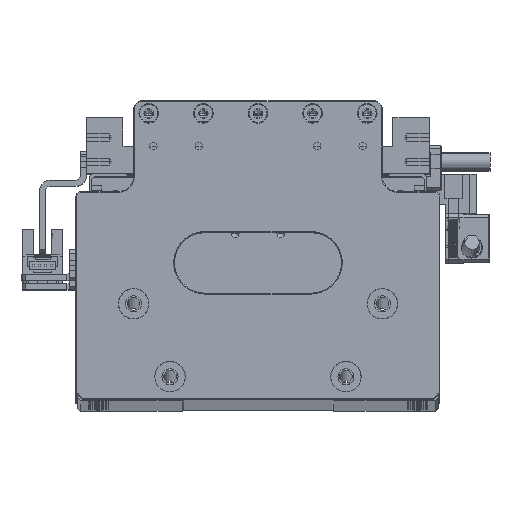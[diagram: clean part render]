
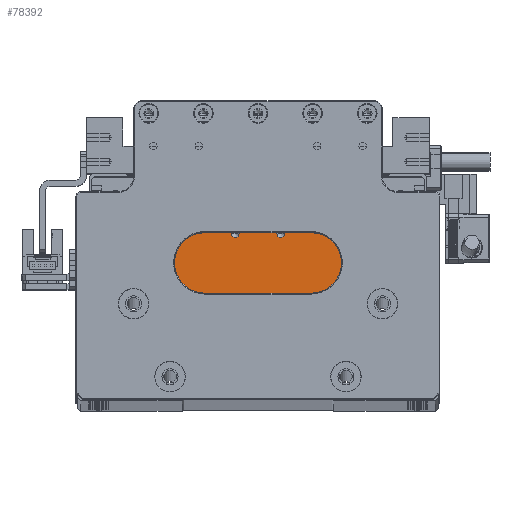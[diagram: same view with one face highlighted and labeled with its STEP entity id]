
A CAD part, top view. The second image highlights one B-rep face of the part: STEP entity #78392.
In plain terms, the highlighted planar face has unit normal (0, 0, 1).
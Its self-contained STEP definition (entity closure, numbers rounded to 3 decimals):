
#235 = VECTOR ( 'NONE', #104310, 1000. ) ;
#633 = CARTESIAN_POINT ( 'NONE',  ( 7.5, 32.2, 66.894 ) ) ;
#1108 = ORIENTED_EDGE ( 'NONE', *, *, #65518, .T. ) ;
#1875 = CARTESIAN_POINT ( 'NONE',  ( 18.5, 40.2, 66.894 ) ) ;
#2452 = EDGE_CURVE ( 'NONE', #56827, #56666, #53800, .T. ) ;
#4396 = CARTESIAN_POINT ( 'NONE',  ( -8.75, 32.2, 66.894 ) ) ;
#5503 = DIRECTION ( 'NONE',  ( 1., 0., 0. ) ) ;
#6701 = DIRECTION ( 'NONE',  ( 1., 0., 0. ) ) ;
#6750 = ORIENTED_EDGE ( 'NONE', *, *, #110049, .T. ) ;
#9055 = LINE ( 'NONE', #23405, #14851 ) ;
#9929 = DIRECTION ( 'NONE',  ( 1., 0., 0. ) ) ;
#10654 = CARTESIAN_POINT ( 'NONE',  ( -18.5, 40., 66.894 ) ) ;
#11289 = CARTESIAN_POINT ( 'NONE',  ( -30., 0.2, 66.894 ) ) ;
#11828 = AXIS2_PLACEMENT_3D ( 'NONE', #28943, #93885, #38307 ) ;
#14851 = VECTOR ( 'NONE', #70077, 1000. ) ;
#16034 = ORIENTED_EDGE ( 'NONE', *, *, #28291, .T. ) ;
#16183 = FACE_BOUND ( 'NONE', #86111, .T. ) ;
#16413 = EDGE_CURVE ( 'NONE', #22173, #120401, #44868, .T. ) ;
#16951 = EDGE_CURVE ( 'NONE', #111033, #96468, #66437, .T. ) ;
#18108 = LINE ( 'NONE', #29648, #70354 ) ;
#18313 = CARTESIAN_POINT ( 'NONE',  ( -29.8, 40.2, 66.894 ) ) ;
#20135 = VECTOR ( 'NONE', #71811, 1000. ) ;
#20506 = DIRECTION ( 'NONE',  ( 0., 1., 0. ) ) ;
#20733 = CARTESIAN_POINT ( 'NONE',  ( 0., 40., 66.894 ) ) ;
#21926 = DIRECTION ( 'NONE',  ( 0., 0., 1. ) ) ;
#22173 = VERTEX_POINT ( 'NONE', #55288 ) ;
#23405 = CARTESIAN_POINT ( 'NONE',  ( 0., 32.2, 66.894 ) ) ;
#27274 = EDGE_CURVE ( 'NONE', #120401, #56827, #18108, .T. ) ;
#27798 = LINE ( 'NONE', #20733, #235 ) ;
#28291 = EDGE_CURVE ( 'NONE', #38177, #105013, #62905, .T. ) ;
#28943 = CARTESIAN_POINT ( 'NONE',  ( -7.5, 32.2, 66.894 ) ) ;
#29100 = AXIS2_PLACEMENT_3D ( 'NONE', #77544, #21926, #86836 ) ;
#29648 = CARTESIAN_POINT ( 'NONE',  ( 0., 32.2, 66.894 ) ) ;
#29962 = VECTOR ( 'NONE', #57939, 1000. ) ;
#35999 = EDGE_CURVE ( 'NONE', #105532, #38177, #9055, .T. ) ;
#36984 = DIRECTION ( 'NONE',  ( 0., -1., 0. ) ) ;
#37085 = CARTESIAN_POINT ( 'NONE',  ( -29.8, 32.2, 66.894 ) ) ;
#38177 = VERTEX_POINT ( 'NONE', #37085 ) ;
#38307 = DIRECTION ( 'NONE',  ( 1., 0., 0. ) ) ;
#39426 = CIRCLE ( 'NONE', #83121, 1.25 ) ;
#41192 = CARTESIAN_POINT ( 'NONE',  ( -18.5, 40.2, 66.894 ) ) ;
#44868 = LINE ( 'NONE', #118084, #20135 ) ;
#47909 = ORIENTED_EDGE ( 'NONE', *, *, #2452, .T. ) ;
#52082 = CARTESIAN_POINT ( 'NONE',  ( 18.5, 40., 66.894 ) ) ;
#53677 = CARTESIAN_POINT ( 'NONE',  ( 18.5, 32.2, 66.894 ) ) ;
#53800 = LINE ( 'NONE', #1875, #103190 ) ;
#54248 = ORIENTED_EDGE ( 'NONE', *, *, #35999, .T. ) ;
#55288 = CARTESIAN_POINT ( 'NONE',  ( 29.8, 0.2, 66.894 ) ) ;
#56666 = VERTEX_POINT ( 'NONE', #52082 ) ;
#56827 = VERTEX_POINT ( 'NONE', #53677 ) ;
#57024 = CARTESIAN_POINT ( 'NONE',  ( 29.8, 32.2, 66.894 ) ) ;
#57939 = DIRECTION ( 'NONE',  ( 1., 0., 0. ) ) ;
#58710 = CARTESIAN_POINT ( 'NONE',  ( -6.25, 32.2, 66.894 ) ) ;
#58843 = PLANE ( 'NONE',  #29100 ) ;
#59389 = CIRCLE ( 'NONE', #114578, 1.25 ) ;
#59692 = EDGE_CURVE ( 'NONE', #98419, #97896, #39426, .T. ) ;
#59803 = VECTOR ( 'NONE', #88250, 1000. ) ;
#61082 = DIRECTION ( 'NONE',  ( 0., 0., -1. ) ) ;
#62228 = DIRECTION ( 'NONE',  ( 0., 0., -1. ) ) ;
#62345 = EDGE_LOOP ( 'NONE', ( #1108, #70505 ) ) ;
#62905 = LINE ( 'NONE', #18313, #106480 ) ;
#65498 = FACE_OUTER_BOUND ( 'NONE', #74684, .T. ) ;
#65504 = DIRECTION ( 'NONE',  ( 0., 0., -1. ) ) ;
#65518 = EDGE_CURVE ( 'NONE', #96468, #111033, #79364, .T. ) ;
#66437 = CIRCLE ( 'NONE', #69495, 1.25 ) ;
#69372 = EDGE_CURVE ( 'NONE', #56666, #104652, #27798, .T. ) ;
#69495 = AXIS2_PLACEMENT_3D ( 'NONE', #116713, #61082, #5503 ) ;
#70077 = DIRECTION ( 'NONE',  ( -1., 0., 0. ) ) ;
#70354 = VECTOR ( 'NONE', #103890, 1000. ) ;
#70505 = ORIENTED_EDGE ( 'NONE', *, *, #16951, .T. ) ;
#71811 = DIRECTION ( 'NONE',  ( 0., 1., 0. ) ) ;
#74684 = EDGE_LOOP ( 'NONE', ( #90413, #88161, #54248, #16034, #93764, #98657, #113960, #47909 ) ) ;
#75155 = CARTESIAN_POINT ( 'NONE',  ( -29.8, 0.2, 66.894 ) ) ;
#77279 = ORIENTED_EDGE ( 'NONE', *, *, #59692, .T. ) ;
#77544 = CARTESIAN_POINT ( 'NONE',  ( 0., 40.2, 66.894 ) ) ;
#78392 = ADVANCED_FACE ( 'NONE', ( #65498, #16183, #87286 ), #58843, .T. ) ;
#79306 = LINE ( 'NONE', #11289, #29962 ) ;
#79364 = CIRCLE ( 'NONE', #11828, 1.25 ) ;
#83121 = AXIS2_PLACEMENT_3D ( 'NONE', #633, #65504, #9929 ) ;
#84507 = LINE ( 'NONE', #41192, #59803 ) ;
#84967 = EDGE_CURVE ( 'NONE', #105013, #22173, #79306, .T. ) ;
#86111 = EDGE_LOOP ( 'NONE', ( #77279, #6750 ) ) ;
#86836 = DIRECTION ( 'NONE',  ( 1., 0., 0. ) ) ;
#87286 = FACE_BOUND ( 'NONE', #62345, .T. ) ;
#88161 = ORIENTED_EDGE ( 'NONE', *, *, #116250, .T. ) ;
#88250 = DIRECTION ( 'NONE',  ( 0., -1., 0. ) ) ;
#90413 = ORIENTED_EDGE ( 'NONE', *, *, #69372, .T. ) ;
#93764 = ORIENTED_EDGE ( 'NONE', *, *, #84967, .T. ) ;
#93885 = DIRECTION ( 'NONE',  ( 0., 0., -1. ) ) ;
#96468 = VERTEX_POINT ( 'NONE', #58710 ) ;
#97896 = VERTEX_POINT ( 'NONE', #100678 ) ;
#98419 = VERTEX_POINT ( 'NONE', #108282 ) ;
#98657 = ORIENTED_EDGE ( 'NONE', *, *, #16413, .T. ) ;
#100678 = CARTESIAN_POINT ( 'NONE',  ( 6.25, 32.2, 66.894 ) ) ;
#100976 = CARTESIAN_POINT ( 'NONE',  ( -18.5, 32.2, 66.894 ) ) ;
#103190 = VECTOR ( 'NONE', #20506, 1000. ) ;
#103890 = DIRECTION ( 'NONE',  ( -1., 0., 0. ) ) ;
#104310 = DIRECTION ( 'NONE',  ( -1., 0., 0. ) ) ;
#104652 = VERTEX_POINT ( 'NONE', #10654 ) ;
#105013 = VERTEX_POINT ( 'NONE', #75155 ) ;
#105532 = VERTEX_POINT ( 'NONE', #100976 ) ;
#106480 = VECTOR ( 'NONE', #36984, 1000. ) ;
#108282 = CARTESIAN_POINT ( 'NONE',  ( 8.75, 32.2, 66.894 ) ) ;
#110049 = EDGE_CURVE ( 'NONE', #97896, #98419, #59389, .T. ) ;
#111033 = VERTEX_POINT ( 'NONE', #4396 ) ;
#113960 = ORIENTED_EDGE ( 'NONE', *, *, #27274, .T. ) ;
#114578 = AXIS2_PLACEMENT_3D ( 'NONE', #117886, #62228, #6701 ) ;
#116250 = EDGE_CURVE ( 'NONE', #104652, #105532, #84507, .T. ) ;
#116713 = CARTESIAN_POINT ( 'NONE',  ( -7.5, 32.2, 66.894 ) ) ;
#117886 = CARTESIAN_POINT ( 'NONE',  ( 7.5, 32.2, 66.894 ) ) ;
#118084 = CARTESIAN_POINT ( 'NONE',  ( 29.8, 40.2, 66.894 ) ) ;
#120401 = VERTEX_POINT ( 'NONE', #57024 ) ;
